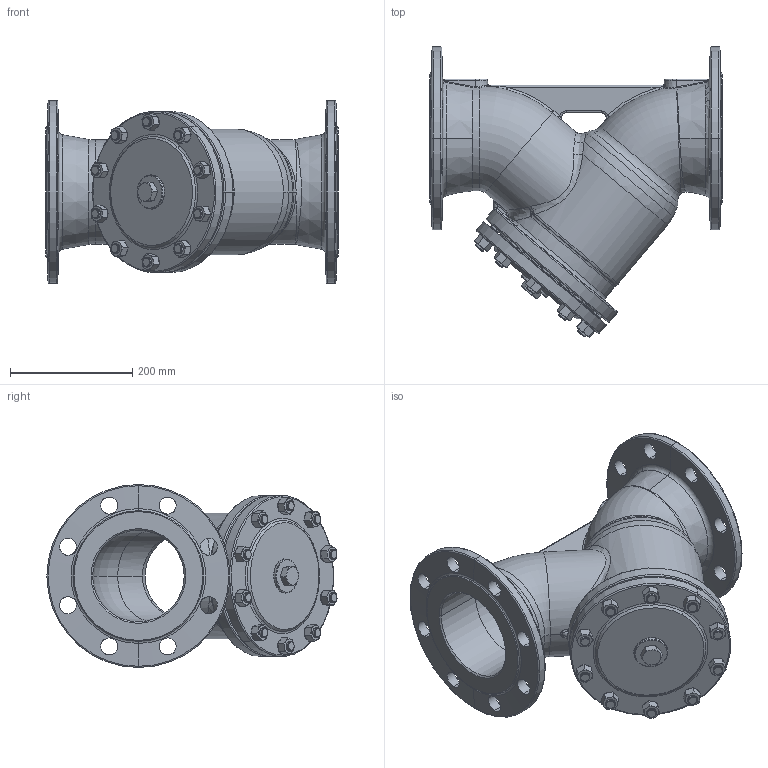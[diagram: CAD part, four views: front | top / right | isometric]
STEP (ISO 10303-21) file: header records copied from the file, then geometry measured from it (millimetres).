
FILE_DESCRIPTION (( 'STEP AP203' ), '1' );
FILE_NAME ('821_DN150_PN25.STEP', '2010-01-13T09:28:00', ( 'Piotr Zlobecki' ), ( 'ZETKAMA SA' ), 'SwSTEP 2.0', 'SolidWorks 2010', '' );
FILE_SCHEMA (( 'CONFIG_CONTROL_DESIGN' ));
Products named in the file (1): 821_DN150_PN25
Bounding box: 480 x 475.63 x 300 mm (x, y, z)
Volume: 7405401.8 mm3; surface area: 1116810 mm2
Topology: 23 solids, 23 shells, 1026 faces, 2238 edges, 1272 vertices
Faces by surface type: cylinder 313, cone 253, plane 217, torus 144, bspline 95, sphere 4
Entity records: 59286 total; most frequent: CARTESIAN_POINT 37232, DIRECTION 4702, ORIENTED_EDGE 4450, EDGE_CURVE 2225, AXIS2_PLACEMENT_3D 2001, VERTEX_POINT 1272, EDGE_LOOP 1153, CIRCLE 1069
